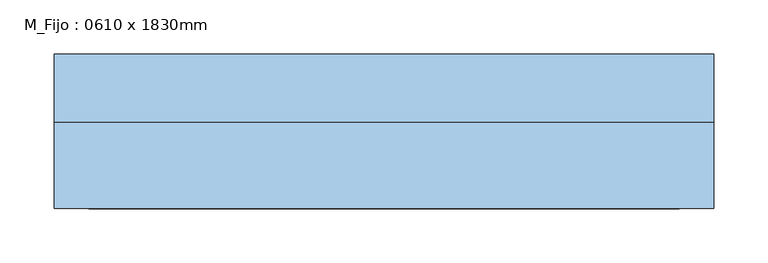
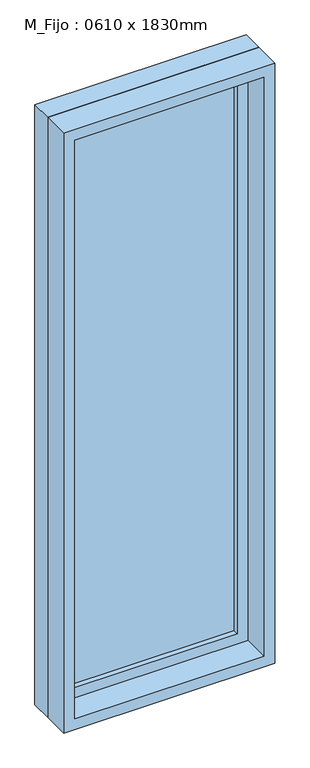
"""IFC4 building model written with IfcOpenShell, lengths in millimetres: window geometry, M_Fijo : 0610 x 1830mm."""

from ifc_helpers import new_model, si_unit, frame, origin, place, context, project, spatial, polyline, outline, extrude, source, transform, mapped, element, save


def m_fijo_0610_x_1830mm_d2084b0e(model_context):
    return source(origin(), model_context, "Body", "SweptSolid", [
        extrude(outline(polyline([(-242.0, 49.5), (242.0, 49.5), (242.0, 37.5), (-242.0, 37.5), (-242.0, 49.5)])), frame((0.0, 0.0, 368.0), z_axis=(0.0, 0.0, 1.0), x_axis=(1.0, 0.0, 0.0)), (0.0, 0.0, 1.0), 1704.0),
        extrude(outline(polyline([(2116.0, -286.0), (324.0, -286.0), (324.0, 286.0), (2116.0, 286.0), (2116.0, -286.0)]), holes=[polyline([(2072.0, -242.0), (2072.0, 242.0), (368.0, 242.0), (368.0, -242.0), (2072.0, -242.0)])]), frame((0.0, 21.5, 0.0), z_axis=(0.0, 1.0, 0.0), x_axis=(0.0, 0.0, 1.0)), (0.0, 0.0, 1.0), 44.0),
        extrude(outline(polyline([(2135.0, -305.0), (305.0, -305.0), (305.0, 305.0), (2135.0, 305.0), (2135.0, -305.0)]), holes=[polyline([(2116.0, -286.0), (2116.0, 286.0), (324.0, 286.0), (324.0, -286.0), (2116.0, -286.0)])]), frame((0.0, 21.5, 0.0), z_axis=(0.0, 1.0, 0.0), x_axis=(0.0, 0.0, 1.0)), (0.0, 0.0, 1.0), 63.0),
        extrude(outline(polyline([(2135.0, -305.0), (305.0, -305.0), (305.0, 305.0), (2135.0, 305.0), (2135.0, -305.0)]), holes=[polyline([(2103.0, -273.0), (2103.0, 273.0), (337.0, 273.0), (337.0, -273.0), (2103.0, -273.0)])]), frame((0.0, -58.5, 0.0), z_axis=(0.0, 1.0, 0.0), x_axis=(0.0, 0.0, 1.0)), (0.0, 0.0, 1.0), 80.0),
    ])


if __name__ == "__main__":
    model = new_model("IFC4")
    model_context = context("Model", 3, world=origin())
    ifc_project = project(units=[si_unit("LENGTHUNIT", "METRE", prefix="MILLI")], contexts=[model_context])
    site = spatial("IfcSite", under=ifc_project)
    building = spatial("IfcBuilding", under=site)
    placement = place(None, origin())
    m_fijo_0610_x_1830mm_shape = m_fijo_0610_x_1830mm_d2084b0e(model_context)
    element("IfcWindow", 1, ObjectType="M_Fijo : 0610 x 1830mm", at=placement, inside=building, context=model_context, shape_type="MappedRepresentation", body=[
        mapped(m_fijo_0610_x_1830mm_shape, transform((0.0, 0.0, 0.0), x_axis=(1.0, 0.0, 0.0), y_axis=(0.0, 1.0, 0.0), z_axis=(0.0, 0.0, 1.0))),
    ])
    save(model, "model.ifc")
